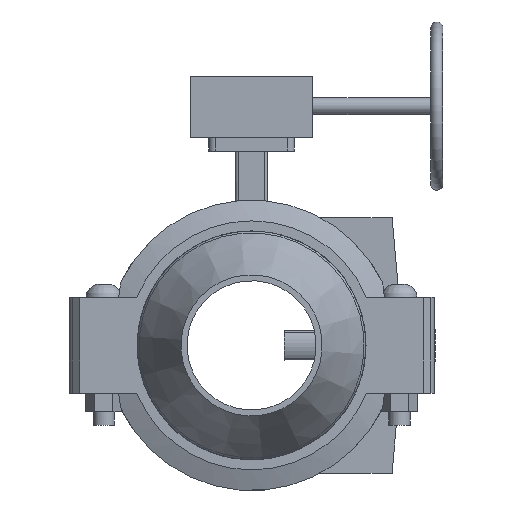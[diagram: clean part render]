
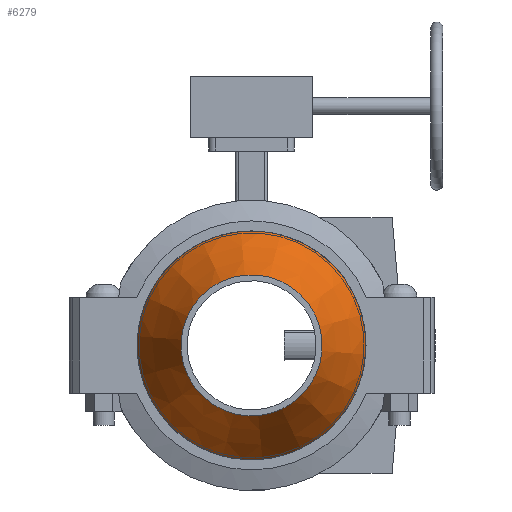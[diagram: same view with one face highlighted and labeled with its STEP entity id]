
A CAD part, front view. The second image highlights one B-rep face of the part: STEP entity #6279.
In plain terms, the highlighted conical face has half-angle 29.216 degrees and reference radius 110.331 mm.
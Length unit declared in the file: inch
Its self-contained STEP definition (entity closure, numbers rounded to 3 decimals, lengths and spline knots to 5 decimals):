
#148=CONICAL_SURFACE('',#6843,4.34375,0.51);
#163=LINE('',#9555,#624);
#624=VECTOR('',#7617,4.34375);
#1273=FACE_OUTER_BOUND('',#1627,.T.);
#1627=EDGE_LOOP('',(#3942,#3943,#3944,#3945,#3946,#3947));
#2055=CIRCLE('',#6841,5.375);
#2056=CIRCLE('',#6842,5.375);
#2057=CIRCLE('',#6844,3.3125);
#2058=CIRCLE('',#6845,3.3125);
#2421=VERTEX_POINT('',#9545);
#2422=VERTEX_POINT('',#9546);
#2423=VERTEX_POINT('',#9551);
#2424=VERTEX_POINT('',#9552);
#3033=EDGE_CURVE('',#2421,#2422,#2055,.T.);
#3034=EDGE_CURVE('',#2422,#2421,#2056,.T.);
#3036=EDGE_CURVE('',#2423,#2424,#2057,.T.);
#3037=EDGE_CURVE('',#2424,#2423,#2058,.T.);
#3038=EDGE_CURVE('',#2424,#2422,#163,.T.);
#3942=ORIENTED_EDGE('',*,*,#3036,.F.);
#3943=ORIENTED_EDGE('',*,*,#3037,.F.);
#3944=ORIENTED_EDGE('',*,*,#3038,.T.);
#3945=ORIENTED_EDGE('',*,*,#3034,.T.);
#3946=ORIENTED_EDGE('',*,*,#3033,.T.);
#3947=ORIENTED_EDGE('',*,*,#3038,.F.);
#6279=ADVANCED_FACE('',(#1273),#148,.T.);
#6841=AXIS2_PLACEMENT_3D('',#9547,#7606,#7607);
#6842=AXIS2_PLACEMENT_3D('',#9548,#7608,#7609);
#6843=AXIS2_PLACEMENT_3D('',#9550,#7611,#7612);
#6844=AXIS2_PLACEMENT_3D('',#9553,#7613,#7614);
#6845=AXIS2_PLACEMENT_3D('',#9554,#7615,#7616);
#7606=DIRECTION('center_axis',(1.,0.,0.));
#7607=DIRECTION('ref_axis',(0.,1.,0.));
#7608=DIRECTION('center_axis',(1.,0.,0.));
#7609=DIRECTION('ref_axis',(0.,1.,0.));
#7611=DIRECTION('center_axis',(-1.,0.,0.));
#7612=DIRECTION('ref_axis',(0.,1.,0.));
#7613=DIRECTION('center_axis',(1.,0.,0.));
#7614=DIRECTION('ref_axis',(0.,1.,0.));
#7615=DIRECTION('center_axis',(1.,0.,0.));
#7616=DIRECTION('ref_axis',(0.,1.,0.));
#7617=DIRECTION('',(-0.873,-0.488,0.));
#9545=CARTESIAN_POINT('',(1.281,5.375,0.));
#9546=CARTESIAN_POINT('',(1.281,-5.375,0.));
#9547=CARTESIAN_POINT('Origin',(1.281,0.,0.));
#9548=CARTESIAN_POINT('Origin',(1.281,0.,0.));
#9550=CARTESIAN_POINT('Origin',(3.125,0.,0.));
#9551=CARTESIAN_POINT('',(4.969,3.3125,0.));
#9552=CARTESIAN_POINT('',(4.969,-3.3125,0.));
#9553=CARTESIAN_POINT('Origin',(4.969,0.,0.));
#9554=CARTESIAN_POINT('Origin',(4.969,0.,0.));
#9555=CARTESIAN_POINT('',(3.125,-4.34375,0.));
